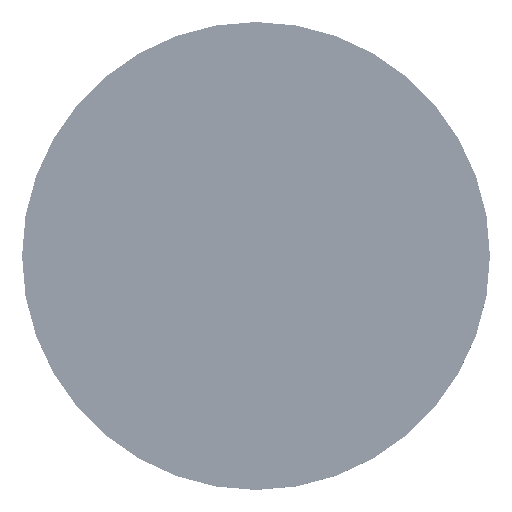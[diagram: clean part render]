
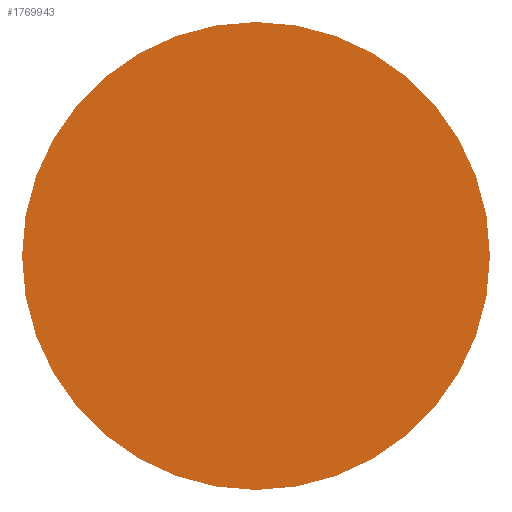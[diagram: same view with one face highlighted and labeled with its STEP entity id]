
A CAD part, top view. The second image highlights one B-rep face of the part: STEP entity #1769943.
In plain terms, the highlighted planar face has unit normal (0, 0, 1).
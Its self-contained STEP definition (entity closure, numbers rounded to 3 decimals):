
#1769825 = VERTEX_POINT('',#1769826);
#1769826 = CARTESIAN_POINT('',(20.,0.,42.981));
#1769835 = CYLINDRICAL_SURFACE('',#1769836,20.);
#1769836 = AXIS2_PLACEMENT_3D('',#1769837,#1769838,#1769839);
#1769837 = CARTESIAN_POINT('',(0.,0.,41.955));
#1769838 = DIRECTION('',(-0.,-0.,-1.));
#1769839 = DIRECTION('',(1.,0.,0.));
#1769854 = EDGE_CURVE('',#1769825,#1769825,#1769855,.T.);
#1769855 = SURFACE_CURVE('',#1769856,(#1769861,#1769868),.PCURVE_S1.);
#1769856 = CIRCLE('',#1769857,20.);
#1769857 = AXIS2_PLACEMENT_3D('',#1769858,#1769859,#1769860);
#1769858 = CARTESIAN_POINT('',(0.,0.,42.981));
#1769859 = DIRECTION('',(0.,0.,1.));
#1769860 = DIRECTION('',(1.,0.,-0.));
#1769861 = PCURVE('',#1769835,#1769862);
#1769862 = DEFINITIONAL_REPRESENTATION('',(#1769863),#1769867);
#1769863 = LINE('',#1769864,#1769865);
#1769864 = CARTESIAN_POINT('',(6.283,-1.026));
#1769865 = VECTOR('',#1769866,1.);
#1769866 = DIRECTION('',(-1.,0.));
#1769867 = ( GEOMETRIC_REPRESENTATION_CONTEXT(2) 
PARAMETRIC_REPRESENTATION_CONTEXT() REPRESENTATION_CONTEXT('2D SPACE',''
  ) );
#1769868 = PCURVE('',#1769869,#1769874);
#1769869 = PLANE('',#1769870);
#1769870 = AXIS2_PLACEMENT_3D('',#1769871,#1769872,#1769873);
#1769871 = CARTESIAN_POINT('',(0.,0.,
    42.981));
#1769872 = DIRECTION('',(0.,0.,1.));
#1769873 = DIRECTION('',(1.,0.,-0.));
#1769874 = DEFINITIONAL_REPRESENTATION('',(#1769875),#1769879);
#1769875 = CIRCLE('',#1769876,20.);
#1769876 = AXIS2_PLACEMENT_2D('',#1769877,#1769878);
#1769877 = CARTESIAN_POINT('',(0.,0.));
#1769878 = DIRECTION('',(1.,0.));
#1769879 = ( GEOMETRIC_REPRESENTATION_CONTEXT(2) 
PARAMETRIC_REPRESENTATION_CONTEXT() REPRESENTATION_CONTEXT('2D SPACE',''
  ) );
#1769943 = ADVANCED_FACE('',(#1769944),#1769869,.T.);
#1769944 = FACE_BOUND('',#1769945,.T.);
#1769945 = EDGE_LOOP('',(#1769946));
#1769946 = ORIENTED_EDGE('',*,*,#1769854,.T.);
